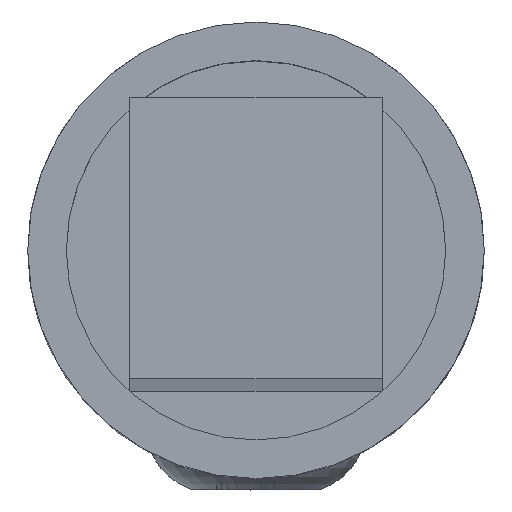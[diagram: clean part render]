
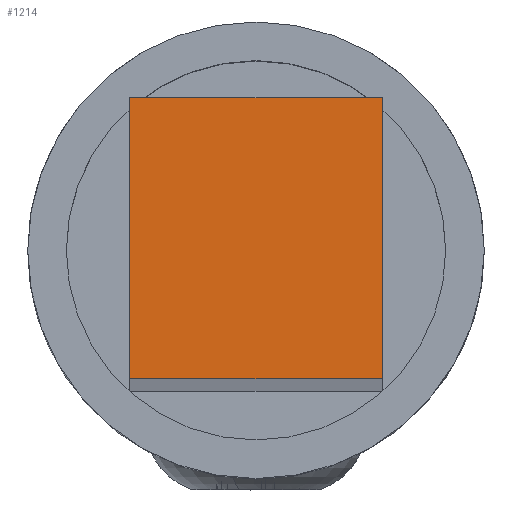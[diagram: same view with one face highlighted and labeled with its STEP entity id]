
A CAD part, top view. The second image highlights one B-rep face of the part: STEP entity #1214.
In plain terms, the highlighted planar face has unit normal (0, 0, 1).
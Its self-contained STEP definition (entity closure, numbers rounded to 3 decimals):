
#4 = ORIENTED_EDGE ( 'NONE', *, *, #186, .T. ) ;
#51 = VERTEX_POINT ( 'NONE', #1561 ) ;
#186 = EDGE_CURVE ( 'NONE', #1681, #51, #1852, .T. ) ;
#229 = CARTESIAN_POINT ( 'NONE',  ( 1.8, 2., 100.8 ) ) ;
#232 = CARTESIAN_POINT ( 'NONE',  ( 1.8, -2., 100.8 ) ) ;
#278 = VERTEX_POINT ( 'NONE', #229 ) ;
#332 = EDGE_LOOP ( 'NONE', ( #1443, #1143, #4, #839 ) ) ;
#376 = AXIS2_PLACEMENT_3D ( 'NONE', #1468, #1902, #1019 ) ;
#464 = DIRECTION ( 'NONE',  ( -1., 0., 0. ) ) ;
#468 = DIRECTION ( 'NONE',  ( 1., 0., 0. ) ) ;
#496 = EDGE_CURVE ( 'NONE', #51, #1375, #550, .T. ) ;
#550 = LINE ( 'NONE', #1664, #1694 ) ;
#562 = FACE_OUTER_BOUND ( 'NONE', #332, .T. ) ;
#659 = LINE ( 'NONE', #1519, #1065 ) ;
#682 = LINE ( 'NONE', #1265, #1438 ) ;
#692 = CARTESIAN_POINT ( 'NONE',  ( -1.8, 2., 100.8 ) ) ;
#839 = ORIENTED_EDGE ( 'NONE', *, *, #496, .T. ) ;
#867 = PLANE ( 'NONE',  #376 ) ;
#879 = EDGE_CURVE ( 'NONE', #278, #1681, #659, .T. ) ;
#988 = DIRECTION ( 'NONE',  ( 0., -1., 0. ) ) ;
#1011 = EDGE_CURVE ( 'NONE', #1375, #278, #682, .T. ) ;
#1019 = DIRECTION ( 'NONE',  ( 1., 0., 0. ) ) ;
#1021 = VECTOR ( 'NONE', #988, 1000. ) ;
#1065 = VECTOR ( 'NONE', #464, 1000. ) ;
#1143 = ORIENTED_EDGE ( 'NONE', *, *, #879, .T. ) ;
#1214 = ADVANCED_FACE ( 'NONE', ( #562 ), #867, .T. ) ;
#1265 = CARTESIAN_POINT ( 'NONE',  ( 1.8, 2., 100.8 ) ) ;
#1375 = VERTEX_POINT ( 'NONE', #232 ) ;
#1411 = DIRECTION ( 'NONE',  ( 0., 1., 0. ) ) ;
#1438 = VECTOR ( 'NONE', #1411, 1000. ) ;
#1443 = ORIENTED_EDGE ( 'NONE', *, *, #1011, .T. ) ;
#1468 = CARTESIAN_POINT ( 'NONE',  ( 1.8, -2., 100.8 ) ) ;
#1519 = CARTESIAN_POINT ( 'NONE',  ( 1.8, 2., 100.8 ) ) ;
#1561 = CARTESIAN_POINT ( 'NONE',  ( -1.8, -2., 100.8 ) ) ;
#1648 = CARTESIAN_POINT ( 'NONE',  ( -1.8, 2., 100.8 ) ) ;
#1664 = CARTESIAN_POINT ( 'NONE',  ( -1.8, -2., 100.8 ) ) ;
#1681 = VERTEX_POINT ( 'NONE', #1648 ) ;
#1694 = VECTOR ( 'NONE', #468, 1000. ) ;
#1852 = LINE ( 'NONE', #692, #1021 ) ;
#1902 = DIRECTION ( 'NONE',  ( 0., 0., 1. ) ) ;
